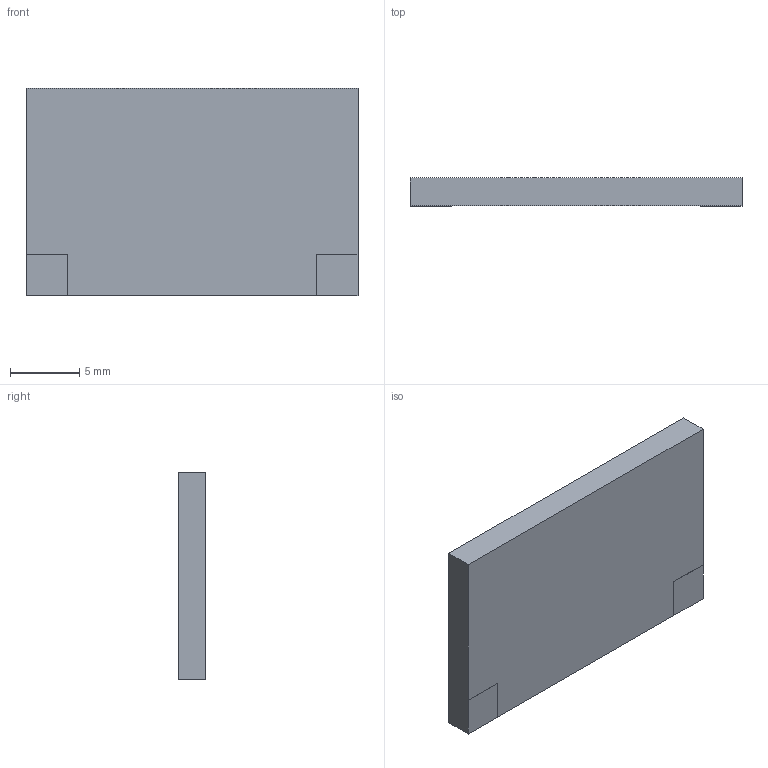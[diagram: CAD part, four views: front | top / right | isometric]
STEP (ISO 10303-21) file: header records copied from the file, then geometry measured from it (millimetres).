
FILE_DESCRIPTION(('STEP AP203'), '1');
FILE_NAME('R1-35-2-1', '', ('UNSPECIFIED'), ('UNSPECIFIED'), 'ASCON STEP Converter 1.6', 'ASCON Math Kernel', '');
FILE_SCHEMA(('CONFIG_CONTROL_DESIGN'));
Length unit declared in the file: millimetre
Bounding box: 24 x 2.01 x 15 mm (x, y, z)
Volume: 720.2 mm3; surface area: 876.2 mm2
Topology: 1 solids, 1 shells, 12 faces, 30 edges, 20 vertices
Faces by surface type: plane 12
Entity records: 494 total; most frequent: CARTESIAN_POINT 63, ORIENTED_EDGE 60, DIRECTION 56, EDGE_CURVE 30, LINE 30, VECTOR 30, VERTEX_POINT 20, AXIS2_PLACEMENT_3D 13
